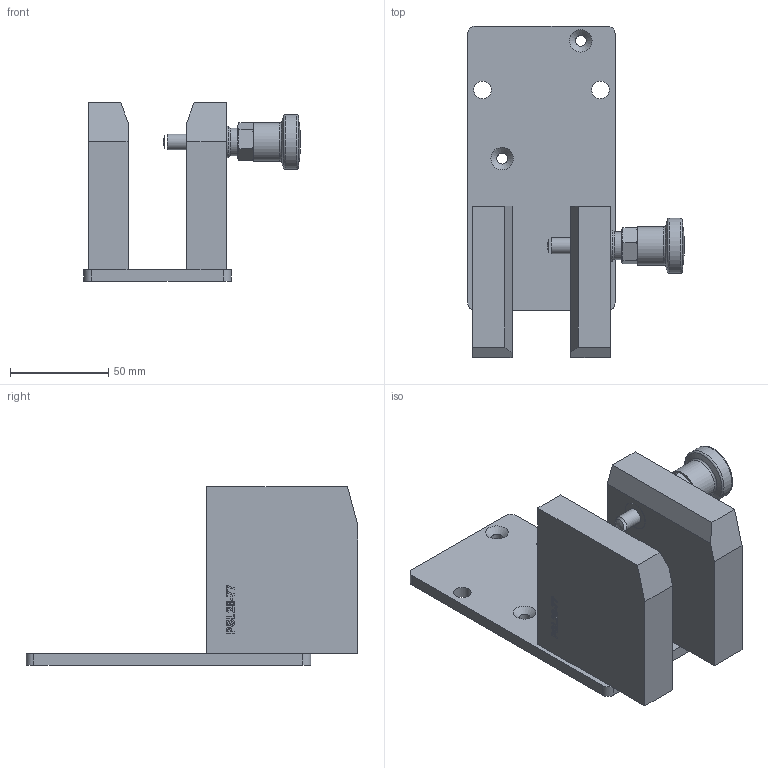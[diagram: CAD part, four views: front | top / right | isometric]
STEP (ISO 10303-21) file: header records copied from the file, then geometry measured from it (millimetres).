
FILE_DESCRIPTION(/* description */ (''),/* implementation_level */ '2;1');
FILE_NAME(/* name */ 'P:\Standard products\2. QDC Clamping Systems\10. PS - Parkstations\PSL28-77 (17-09-19).stp',/* time_stamp */ '2019-09-17T13:26:49+02:00',/* author */ ('breep'),/* organization */ (''),/* preprocessor_version */ 'ST-DEVELOPER v17.2',/* originating_system */ 'Autodesk Inventor 2019',/* authorisation */ '');
FILE_SCHEMA (('AUTOMOTIVE_DESIGN { 1 0 10303 214 3 1 1 }'));
Length unit declared in the file: millimetre
Products named in the file (1): Part5
Bounding box: 110.19 x 169 x 91 mm (x, y, z)
Volume: 332132.5 mm3; surface area: 63526.1 mm2
Topology: 1 solids, 9 shells, 339 faces, 899 edges, 602 vertices
Faces by surface type: plane 162, bspline 104, cone 38, cylinder 30, torus 3, sphere 2
Full cylindrical faces by diameter (mm): 5.5 x2, 6.647 x4, 8 x5, 9 x2, 9.5 x4, 14.16 x1, 14.376 x1, 16 x5, 19.6 x1, 28 x1
Entity records: 11385 total; most frequent: CARTESIAN_POINT 3257, ORIENTED_EDGE 1782, DIRECTION 1250, EDGE_CURVE 891, VERTEX_POINT 602, LINE 484, VECTOR 484, EDGE_LOOP 387
